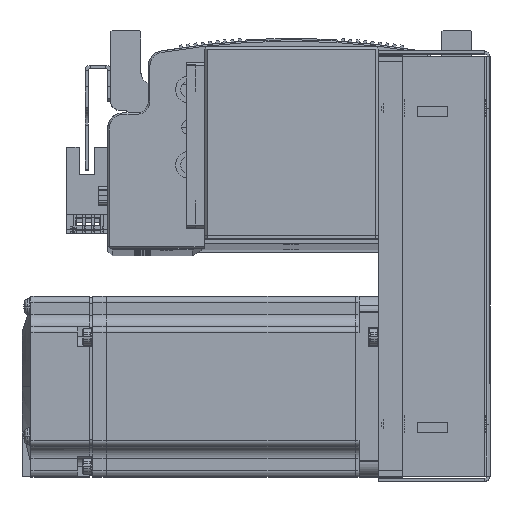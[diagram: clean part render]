
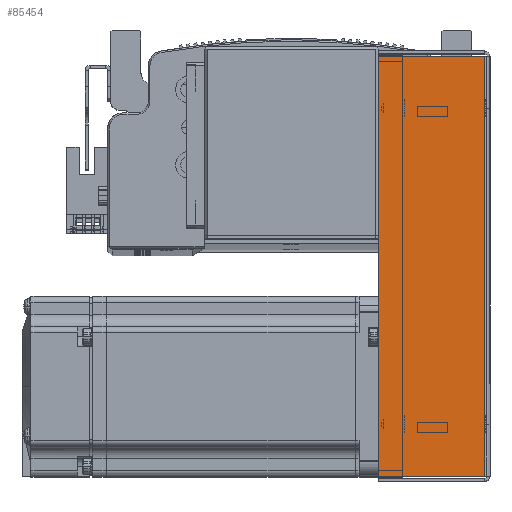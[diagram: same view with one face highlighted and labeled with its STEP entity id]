
A CAD part, top view. The second image highlights one B-rep face of the part: STEP entity #85454.
In plain terms, the highlighted planar face has unit normal (0, 0, 1).
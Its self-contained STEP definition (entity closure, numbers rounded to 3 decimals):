
#15360 = AXIS2_PLACEMENT_3D ( 'NONE', #58556, #58593, #58634 ) ;
#21428 = EDGE_CURVE ( 'NONE', #78750, #78815, #47172, .T. ) ;
#21448 = EDGE_CURVE ( 'NONE', #78753, #78750, #47175, .T. ) ;
#21493 = EDGE_CURVE ( 'NONE', #78764, #78815, #47272, .T. ) ;
#21518 = EDGE_CURVE ( 'NONE', #78753, #78764, #47304, .T. ) ;
#43172 = ORIENTED_EDGE ( 'NONE', *, *, #21428, .T. ) ;
#43182 = ORIENTED_EDGE ( 'NONE', *, *, #21448, .T. ) ;
#43256 = ORIENTED_EDGE ( 'NONE', *, *, #21518, .F. ) ;
#43288 = ORIENTED_EDGE ( 'NONE', *, *, #21493, .F. ) ;
#44253 = FACE_OUTER_BOUND ( 'NONE', #50518, .T. ) ;
#47172 = LINE ( 'NONE', #50422, #47252 ) ;
#47175 = LINE ( 'NONE', #50445, #47225 ) ;
#47225 = VECTOR ( 'NONE', #50452, 1000. ) ;
#47252 = VECTOR ( 'NONE', #50433, 1000. ) ;
#47270 = VECTOR ( 'NONE', #50776, 1000. ) ;
#47272 = LINE ( 'NONE', #50643, #47275 ) ;
#47275 = VECTOR ( 'NONE', #50649, 1000. ) ;
#47304 = LINE ( 'NONE', #50701, #47270 ) ;
#50422 = CARTESIAN_POINT ( 'NONE',  ( 0., 36., 33.5 ) ) ;
#50433 = DIRECTION ( 'NONE',  ( -1., 0., 0. ) ) ;
#50445 = CARTESIAN_POINT ( 'NONE',  ( 69.793, 0., 33.5 ) ) ;
#50452 = DIRECTION ( 'NONE',  ( 0., 1., 0. ) ) ;
#50518 = EDGE_LOOP ( 'NONE', ( #43256, #43182, #43172, #43288 ) ) ;
#50643 = CARTESIAN_POINT ( 'NONE',  ( -69.793, 0., 33.5 ) ) ;
#50649 = DIRECTION ( 'NONE',  ( 0., 1., 0. ) ) ;
#50701 = CARTESIAN_POINT ( 'NONE',  ( -71.5, 0.737, 33.5 ) ) ;
#50776 = DIRECTION ( 'NONE',  ( -1., 0., 0. ) ) ;
#58556 = CARTESIAN_POINT ( 'NONE',  ( 0., 0., 33.5 ) ) ;
#58584 = PLANE ( 'NONE',  #15360 ) ;
#58593 = DIRECTION ( 'NONE',  ( 0., 0., -1. ) ) ;
#58634 = DIRECTION ( 'NONE',  ( -1., 0., 0. ) ) ;
#78750 = VERTEX_POINT ( 'NONE', #80444 ) ;
#78753 = VERTEX_POINT ( 'NONE', #80432 ) ;
#78764 = VERTEX_POINT ( 'NONE', #80442 ) ;
#78815 = VERTEX_POINT ( 'NONE', #80478 ) ;
#80432 = CARTESIAN_POINT ( 'NONE',  ( 69.793, 0.737, 33.5 ) ) ;
#80442 = CARTESIAN_POINT ( 'NONE',  ( -69.793, 0.737, 33.5 ) ) ;
#80444 = CARTESIAN_POINT ( 'NONE',  ( 69.793, 36., 33.5 ) ) ;
#80478 = CARTESIAN_POINT ( 'NONE',  ( -69.793, 36., 33.5 ) ) ;
#85454 = ADVANCED_FACE ( 'NONE', ( #44253 ), #58584, .F. ) ;
